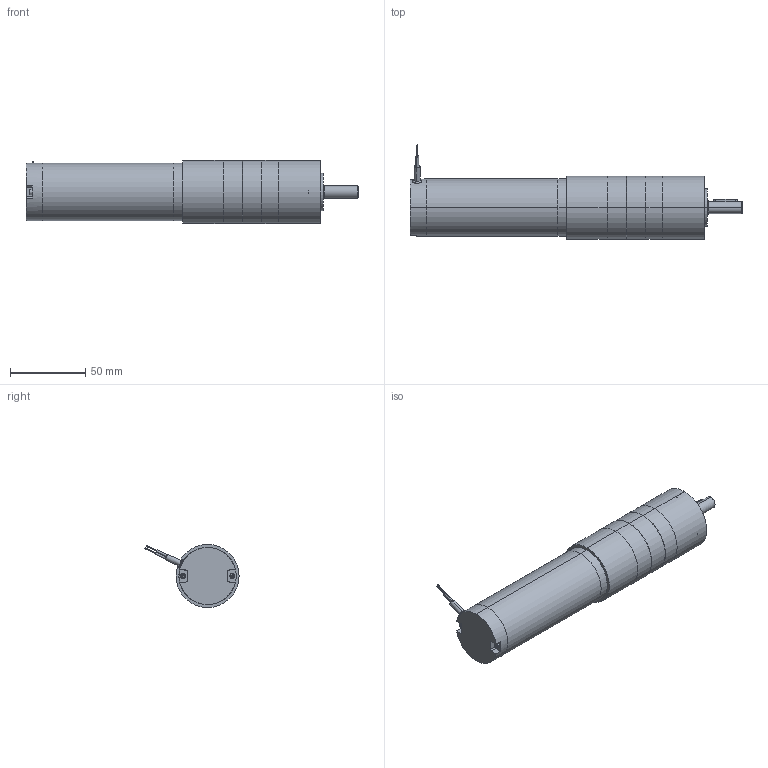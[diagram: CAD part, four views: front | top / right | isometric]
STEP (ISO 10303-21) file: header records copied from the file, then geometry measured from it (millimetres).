
FILE_DESCRIPTION (( 'STEP AP203' ), '1' );
FILE_NAME ('s17400gp3.step', '2018-12-07T19:53:31', ( '' ), ( '' ), 'SwSTEP 2.0', 'SolidWorks 2017', '' );
FILE_SCHEMA (( 'CONFIG_CONTROL_DESIGN' ));
Length unit declared in the file: inch
Products named in the file (1): s17400gp3
Bounding box: 221.27 x 62.72 x 42 mm (x, y, z)
Volume: 243912.2 mm3; surface area: 49848.7 mm2
Topology: 18 solids, 18 shells, 339 faces, 717 edges, 456 vertices
Faces by surface type: plane 150, cylinder 134, cone 37, torus 10, sphere 8
Entity records: 9335 total; most frequent: DIRECTION 1706, CARTESIAN_POINT 1689, ORIENTED_EDGE 1434, EDGE_CURVE 717, AXIS2_PLACEMENT_3D 683, VERTEX_POINT 456, EDGE_LOOP 399, CIRCLE 343
